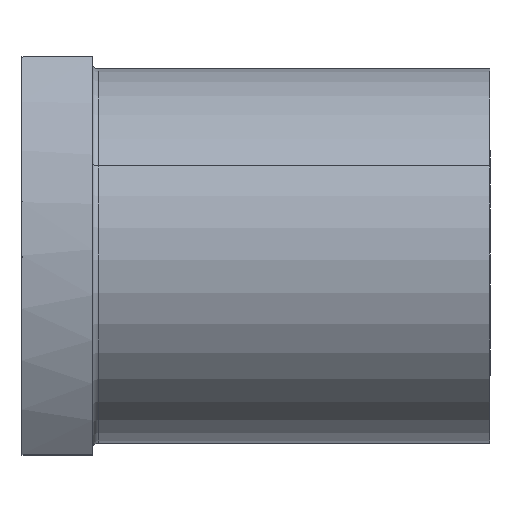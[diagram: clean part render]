
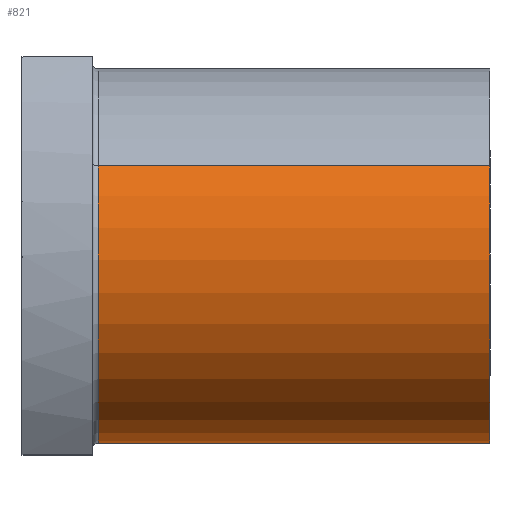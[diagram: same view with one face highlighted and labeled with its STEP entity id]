
A CAD part, top view. The second image highlights one B-rep face of the part: STEP entity #821.
In plain terms, the highlighted cylindrical face has radius 16 mm (diameter 32 mm), a partial arc.
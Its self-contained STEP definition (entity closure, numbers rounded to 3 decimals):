
#573=CARTESIAN_POINT('Vertex',(6.5,7.671,14.041)) ;
#580=CARTESIAN_POINT('Vertex',(6.5,-7.671,-14.041)) ;
#600=CARTESIAN_POINT('Axis2P3D Location',(6.5,0.,0.)) ;
#779=CARTESIAN_POINT('Line Origine',(66.671,7.671,14.041)) ;
#783=CARTESIAN_POINT('Vertex',(40.,7.671,14.041)) ;
#790=CARTESIAN_POINT('Vertex',(40.,-7.671,-14.041)) ;
#793=CARTESIAN_POINT('Line Origine',(66.671,-7.671,-14.041)) ;
#805=CARTESIAN_POINT('Axis2P3D Location',(66.671,0.,0.)) ;
#810=CARTESIAN_POINT('Axis2P3D Location',(40.,0.,0.)) ;
#601=DIRECTION('Axis2P3D Direction',(-1.,0.,-0.)) ;
#780=DIRECTION('Vector Direction',(-1.,0.,0.)) ;
#794=DIRECTION('Vector Direction',(-1.,0.,0.)) ;
#806=DIRECTION('Axis2P3D Direction',(-1.,0.,0.)) ;
#807=DIRECTION('Axis2P3D XDirection',(0.,-0.479,-0.878)) ;
#811=DIRECTION('Axis2P3D Direction',(-1.,0.,0.)) ;
#602=AXIS2_PLACEMENT_3D('Circle Axis2P3D',#600,#601,$) ;
#808=AXIS2_PLACEMENT_3D('Cylinder Axis2P3D',#805,#806,#807) ;
#812=AXIS2_PLACEMENT_3D('Circle Axis2P3D',#810,#811,$) ;
#816=ORIENTED_EDGE('',*,*,#797,.F.) ;
#817=ORIENTED_EDGE('',*,*,#814,.F.) ;
#818=ORIENTED_EDGE('',*,*,#785,.T.) ;
#819=ORIENTED_EDGE('',*,*,#604,.T.) ;
#781=VECTOR('Line Direction',#780,1.) ;
#795=VECTOR('Line Direction',#794,1.) ;
#821=ADVANCED_FACE('ATM20',(#820),#809,.T.) ;
#603=CIRCLE('generated circle',#602,16.) ;
#813=CIRCLE('generated circle',#812,16.) ;
#809=CYLINDRICAL_SURFACE('generated cylinder',#808,16.) ;
#604=EDGE_CURVE('',#574,#581,#603,.F.) ;
#785=EDGE_CURVE('',#784,#574,#782,.T.) ;
#797=EDGE_CURVE('',#791,#581,#796,.T.) ;
#814=EDGE_CURVE('',#784,#791,#813,.F.) ;
#815=EDGE_LOOP('',(#816,#817,#818,#819)) ;
#820=FACE_OUTER_BOUND('',#815,.T.) ;
#782=LINE('Line',#779,#781) ;
#796=LINE('Line',#793,#795) ;
#574=VERTEX_POINT('',#573) ;
#581=VERTEX_POINT('',#580) ;
#784=VERTEX_POINT('',#783) ;
#791=VERTEX_POINT('',#790) ;
